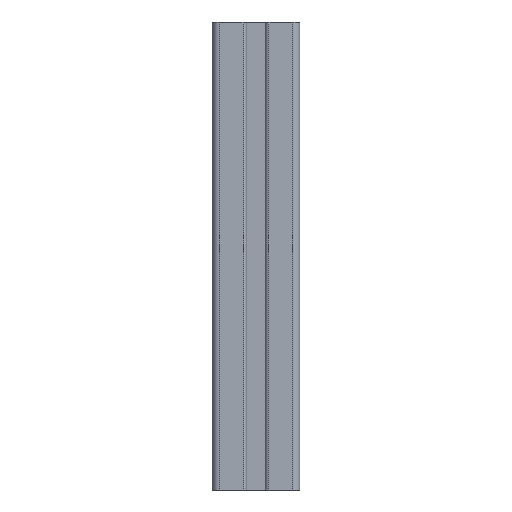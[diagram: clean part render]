
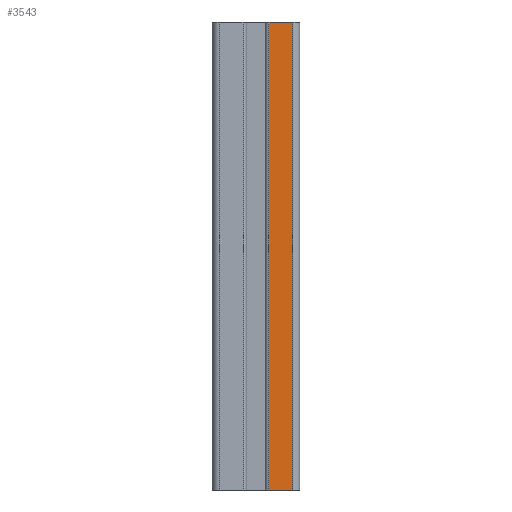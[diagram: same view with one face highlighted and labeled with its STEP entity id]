
A CAD part, left-side view. The second image highlights one B-rep face of the part: STEP entity #3543.
In plain terms, the highlighted planar face has unit normal (-1, 0, 0).
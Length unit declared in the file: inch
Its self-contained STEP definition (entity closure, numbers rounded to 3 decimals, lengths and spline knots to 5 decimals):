
#20=PLANE('',#3744);
#115=LINE('',#5230,#483);
#116=LINE('',#5232,#484);
#117=LINE('',#5234,#485);
#118=LINE('',#5236,#486);
#483=VECTOR('',#4120,39.37008);
#484=VECTOR('',#4123,39.37008);
#485=VECTOR('',#4124,39.37008);
#486=VECTOR('',#4125,39.37008);
#854=ORIENTED_EDGE('',*,*,#1958,.F.);
#855=ORIENTED_EDGE('',*,*,#1957,.F.);
#856=ORIENTED_EDGE('',*,*,#1959,.T.);
#857=ORIENTED_EDGE('',*,*,#1960,.T.);
#1957=EDGE_CURVE('',#2509,#2507,#115,.T.);
#1958=EDGE_CURVE('',#2507,#2510,#116,.T.);
#1959=EDGE_CURVE('',#2509,#2511,#117,.T.);
#1960=EDGE_CURVE('',#2511,#2510,#118,.T.);
#2507=VERTEX_POINT('',#5225);
#2509=VERTEX_POINT('',#5229);
#2510=VERTEX_POINT('',#5233);
#2511=VERTEX_POINT('',#5235);
#3059=EDGE_LOOP('',(#854,#855,#856,#857));
#3255=FACE_BOUND('',#3059,.T.);
#3543=ADVANCED_FACE('',(#3255),#20,.T.);
#3744=AXIS2_PLACEMENT_3D('',#5231,#4121,#4122);
#4120=DIRECTION('',(0.,0.,1.));
#4121=DIRECTION('',(-1.,0.,0.));
#4122=DIRECTION('',(0.,0.,1.));
#4123=DIRECTION('',(0.,-1.,0.));
#4124=DIRECTION('',(0.,-1.,0.));
#4125=DIRECTION('',(0.,0.,1.));
#5225=CARTESIAN_POINT('',(-0.75,-0.222,0.));
#5229=CARTESIAN_POINT('',(-0.75,-0.222,-8.));
#5230=CARTESIAN_POINT('',(-0.75,-0.222,-8.));
#5231=CARTESIAN_POINT('',(-0.75,-0.222,-8.));
#5232=CARTESIAN_POINT('',(-0.75,-0.222,0.));
#5233=CARTESIAN_POINT('',(-0.75,-0.625,0.));
#5234=CARTESIAN_POINT('',(-0.75,-0.222,-8.));
#5235=CARTESIAN_POINT('',(-0.75,-0.625,-8.));
#5236=CARTESIAN_POINT('',(-0.75,-0.625,-8.));
